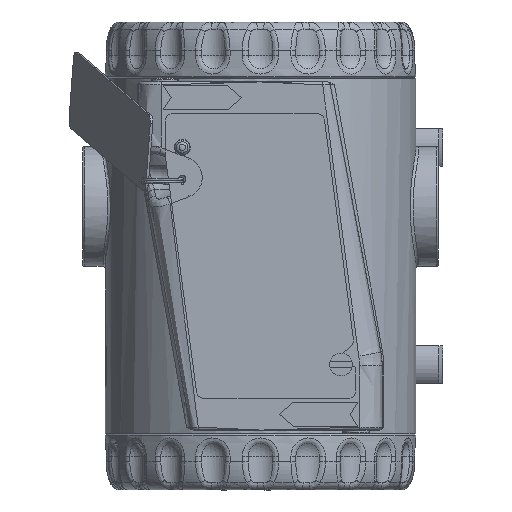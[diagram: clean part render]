
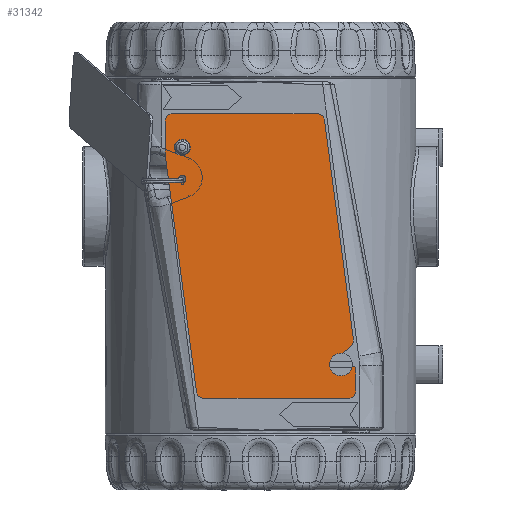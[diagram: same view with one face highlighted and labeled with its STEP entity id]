
A CAD part, left-side view. The second image highlights one B-rep face of the part: STEP entity #31342.
In plain terms, the highlighted planar face has unit normal (-1, 0, 0) as drawn and (0, 0, 1) by its records, which use the part's own axes.
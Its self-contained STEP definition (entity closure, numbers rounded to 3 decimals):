
#1022=PLANE('',#35189);
#1502=FACE_BOUND('',#8510,.T.);
#1503=FACE_BOUND('',#8511,.T.);
#2781=LINE('',#70024,#4212);
#2785=LINE('',#70036,#4216);
#2789=LINE('',#70048,#4220);
#2793=LINE('',#70060,#4224);
#2797=LINE('',#70072,#4228);
#2800=LINE('',#70078,#4231);
#2804=LINE('',#70090,#4235);
#2808=LINE('',#70101,#4239);
#4212=VECTOR('',#43039,10.);
#4216=VECTOR('',#43051,10.);
#4220=VECTOR('',#43063,10.);
#4224=VECTOR('',#43075,10.);
#4228=VECTOR('',#43087,10.);
#4231=VECTOR('',#43092,10.);
#4235=VECTOR('',#43104,10.);
#4239=VECTOR('',#43116,10.);
#6504=FACE_OUTER_BOUND('',#8509,.T.);
#8509=EDGE_LOOP('',(#27367,#27368,#27369,#27370,#27371,#27372,#27373,#27374,
#27375,#27376,#27377,#27378,#27379,#27380,#27381));
#8510=EDGE_LOOP('',(#27382));
#8511=EDGE_LOOP('',(#27383));
#10588=CIRCLE('',#35155,1.35);
#10590=CIRCLE('',#35158,1.);
#10591=CIRCLE('',#35160,2.);
#10593=CIRCLE('',#35164,2.);
#10595=CIRCLE('',#35168,1.);
#10597=CIRCLE('',#35172,2.);
#10599=CIRCLE('',#35176,2.);
#10601=CIRCLE('',#35181,2.);
#10603=CIRCLE('',#35185,2.);
#14404=VERTEX_POINT('',#70004);
#14406=VERTEX_POINT('',#70010);
#14407=VERTEX_POINT('',#70014);
#14408=VERTEX_POINT('',#70015);
#14411=VERTEX_POINT('',#70023);
#14413=VERTEX_POINT('',#70029);
#14415=VERTEX_POINT('',#70035);
#14417=VERTEX_POINT('',#70041);
#14419=VERTEX_POINT('',#70047);
#14421=VERTEX_POINT('',#70053);
#14423=VERTEX_POINT('',#70059);
#14425=VERTEX_POINT('',#70065);
#14427=VERTEX_POINT('',#70071);
#14429=VERTEX_POINT('',#70077);
#14431=VERTEX_POINT('',#70083);
#14433=VERTEX_POINT('',#70089);
#14435=VERTEX_POINT('',#70095);
#18796=EDGE_CURVE('',#14404,#14404,#10588,.T.);
#18799=EDGE_CURVE('',#14406,#14406,#10590,.T.);
#18800=EDGE_CURVE('',#14407,#14408,#10591,.T.);
#18804=EDGE_CURVE('',#14408,#14411,#2781,.T.);
#18807=EDGE_CURVE('',#14411,#14413,#10593,.T.);
#18810=EDGE_CURVE('',#14413,#14415,#2785,.T.);
#18813=EDGE_CURVE('',#14415,#14417,#10595,.T.);
#18816=EDGE_CURVE('',#14417,#14419,#2789,.T.);
#18819=EDGE_CURVE('',#14419,#14421,#10597,.T.);
#18822=EDGE_CURVE('',#14421,#14423,#2793,.T.);
#18825=EDGE_CURVE('',#14423,#14425,#10599,.T.);
#18828=EDGE_CURVE('',#14425,#14427,#2797,.T.);
#18831=EDGE_CURVE('',#14427,#14429,#2800,.T.);
#18834=EDGE_CURVE('',#14429,#14431,#10601,.T.);
#18837=EDGE_CURVE('',#14431,#14433,#2804,.T.);
#18840=EDGE_CURVE('',#14433,#14435,#10603,.T.);
#18843=EDGE_CURVE('',#14435,#14407,#2808,.T.);
#27367=ORIENTED_EDGE('',*,*,#18800,.F.);
#27368=ORIENTED_EDGE('',*,*,#18843,.F.);
#27369=ORIENTED_EDGE('',*,*,#18840,.F.);
#27370=ORIENTED_EDGE('',*,*,#18837,.F.);
#27371=ORIENTED_EDGE('',*,*,#18834,.F.);
#27372=ORIENTED_EDGE('',*,*,#18831,.F.);
#27373=ORIENTED_EDGE('',*,*,#18828,.F.);
#27374=ORIENTED_EDGE('',*,*,#18825,.F.);
#27375=ORIENTED_EDGE('',*,*,#18822,.F.);
#27376=ORIENTED_EDGE('',*,*,#18819,.F.);
#27377=ORIENTED_EDGE('',*,*,#18816,.F.);
#27378=ORIENTED_EDGE('',*,*,#18813,.F.);
#27379=ORIENTED_EDGE('',*,*,#18810,.F.);
#27380=ORIENTED_EDGE('',*,*,#18807,.F.);
#27381=ORIENTED_EDGE('',*,*,#18804,.F.);
#27382=ORIENTED_EDGE('',*,*,#18796,.T.);
#27383=ORIENTED_EDGE('',*,*,#18799,.T.);
#31342=ADVANCED_FACE('',(#6504,#1502,#1503),#1022,.T.);
#35155=AXIS2_PLACEMENT_3D('',#70006,#43020,#43021);
#35158=AXIS2_PLACEMENT_3D('',#70012,#43027,#43028);
#35160=AXIS2_PLACEMENT_3D('',#70016,#43031,#43032);
#35164=AXIS2_PLACEMENT_3D('',#70030,#43044,#43045);
#35168=AXIS2_PLACEMENT_3D('',#70042,#43056,#43057);
#35172=AXIS2_PLACEMENT_3D('',#70054,#43068,#43069);
#35176=AXIS2_PLACEMENT_3D('',#70066,#43080,#43081);
#35181=AXIS2_PLACEMENT_3D('',#70084,#43097,#43098);
#35185=AXIS2_PLACEMENT_3D('',#70096,#43109,#43110);
#35189=AXIS2_PLACEMENT_3D('',#70104,#43120,#43121);
#43020=DIRECTION('center_axis',(0.,0.,-1.));
#43021=DIRECTION('ref_axis',(-1.,0.,0.));
#43027=DIRECTION('center_axis',(0.,0.,-1.));
#43028=DIRECTION('ref_axis',(-1.,0.,0.));
#43031=DIRECTION('center_axis',(0.,0.,-1.));
#43032=DIRECTION('ref_axis',(0.766,0.643,0.));
#43039=DIRECTION('',(0.643,-0.766,0.));
#43044=DIRECTION('center_axis',(0.,0.,1.));
#43045=DIRECTION('ref_axis',(0.766,0.643,0.));
#43051=DIRECTION('',(-0.643,0.766,0.));
#43056=DIRECTION('center_axis',(0.,0.,-1.));
#43057=DIRECTION('ref_axis',(0.,1.,0.));
#43063=DIRECTION('',(1.,0.,0.));
#43068=DIRECTION('center_axis',(0.,0.,-1.));
#43069=DIRECTION('ref_axis',(1.,0.,0.));
#43075=DIRECTION('',(0.,-1.,0.));
#43080=DIRECTION('center_axis',(0.,0.,-1.));
#43081=DIRECTION('ref_axis',(0.131,-0.991,0.));
#43087=DIRECTION('',(-0.991,-0.131,0.));
#43092=DIRECTION('',(-1.,0.,0.));
#43097=DIRECTION('center_axis',(0.,0.,-1.));
#43098=DIRECTION('ref_axis',(-1.,0.,0.));
#43104=DIRECTION('',(0.,1.,0.));
#43109=DIRECTION('center_axis',(0.,0.,-1.));
#43110=DIRECTION('ref_axis',(-0.131,0.991,0.));
#43116=DIRECTION('',(0.991,0.131,0.));
#43120=DIRECTION('center_axis',(0.,0.,1.));
#43121=DIRECTION('ref_axis',(1.,0.,0.));
#70004=CARTESIAN_POINT('',(10.35,4.599,0.7));
#70006=CARTESIAN_POINT('Origin',(9.,4.599,0.7));
#70010=CARTESIAN_POINT('',(18.4,4.599,0.7));
#70012=CARTESIAN_POINT('Origin',(17.4,4.599,0.7));
#70014=CARTESIAN_POINT('',(60.389,50.327,0.7));
#70015=CARTESIAN_POINT('',(62.182,49.63,0.7));
#70016=CARTESIAN_POINT('Origin',(60.65,48.344,0.7));
#70023=CARTESIAN_POINT('',(65.468,45.714,0.7));
#70024=CARTESIAN_POINT('',(65.468,45.714,0.7));
#70029=CARTESIAN_POINT('',(68.532,48.286,0.7));
#70030=CARTESIAN_POINT('Origin',(67.,47.,0.7));
#70035=CARTESIAN_POINT('',(67.633,49.357,0.7));
#70036=CARTESIAN_POINT('',(67.633,49.357,0.7));
#70041=CARTESIAN_POINT('',(68.399,51.,0.7));
#70042=CARTESIAN_POINT('Origin',(68.399,50.,0.7));
#70047=CARTESIAN_POINT('',(74.,51.,0.7));
#70048=CARTESIAN_POINT('',(74.,51.,0.7));
#70053=CARTESIAN_POINT('',(76.,49.,0.7));
#70054=CARTESIAN_POINT('Origin',(74.,49.,0.7));
#70059=CARTESIAN_POINT('',(76.,10.377,0.7));
#70060=CARTESIAN_POINT('',(76.,10.377,0.7));
#70065=CARTESIAN_POINT('',(74.261,8.394,0.7));
#70066=CARTESIAN_POINT('Origin',(74.,10.377,0.7));
#70071=CARTESIAN_POINT('',(10.5,0.,0.7));
#70072=CARTESIAN_POINT('',(10.5,0.,0.7));
#70077=CARTESIAN_POINT('',(2.,0.,0.7));
#70078=CARTESIAN_POINT('',(2.,0.,0.7));
#70083=CARTESIAN_POINT('',(0.,2.,0.7));
#70084=CARTESIAN_POINT('Origin',(2.,2.,0.7));
#70089=CARTESIAN_POINT('',(0.,40.623,0.7));
#70090=CARTESIAN_POINT('',(0.,40.623,0.7));
#70095=CARTESIAN_POINT('',(1.739,42.606,0.7));
#70096=CARTESIAN_POINT('Origin',(2.,40.623,0.7));
#70101=CARTESIAN_POINT('',(60.389,50.327,0.7));
#70104=CARTESIAN_POINT('Origin',(39.077,26.228,0.7));
